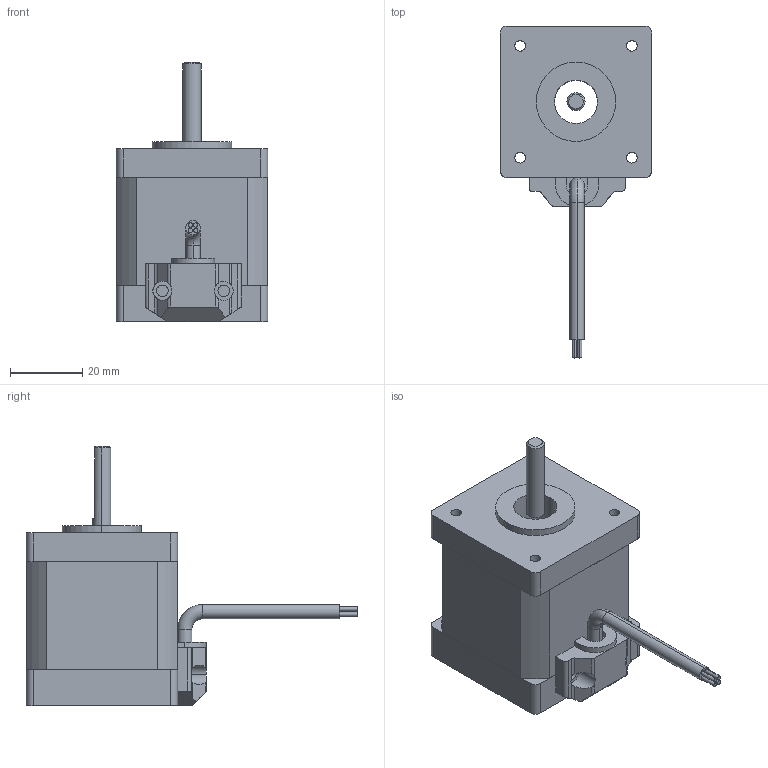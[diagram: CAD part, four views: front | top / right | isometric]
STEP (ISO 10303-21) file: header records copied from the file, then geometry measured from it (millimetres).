
FILE_DESCRIPTION (( 'STEP AP203' ), '1' );
FILE_NAME ('42HS248-2.5-4A-005.STEP', '2020-03-17T07:18:37', ( '' ), ( '' ), 'SwSTEP 2.0', 'SolidWorks 2017', '' );
FILE_SCHEMA (( 'CONFIG_CONTROL_DESIGN' ));
Length unit declared in the file: millimetre
Products named in the file (1): 42HS248-2.5-4A-005
Bounding box: 42 x 92 x 72 mm (x, y, z)
Volume: 80133 mm3; surface area: 19070.7 mm2
Topology: 3 solids, 3 shells, 139 faces, 362 edges, 238 vertices
Faces by surface type: cylinder 78, plane 56, cone 3, torus 2
Entity records: 4497 total; most frequent: CARTESIAN_POINT 844, DIRECTION 776, ORIENTED_EDGE 724, EDGE_CURVE 362, AXIS2_PLACEMENT_3D 294, VERTEX_POINT 238, LINE 188, VECTOR 188
